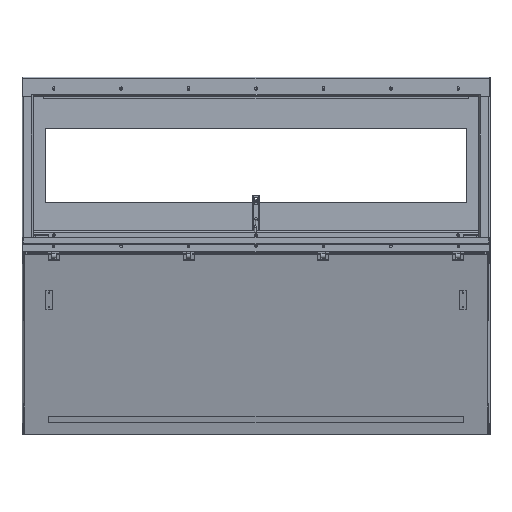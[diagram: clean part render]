
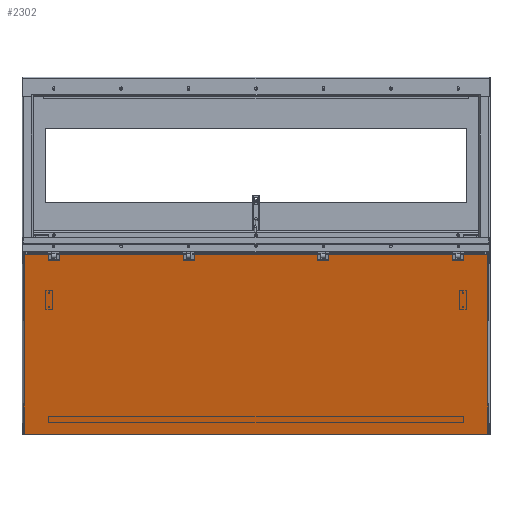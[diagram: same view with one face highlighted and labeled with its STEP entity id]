
A CAD part, top view. The second image highlights one B-rep face of the part: STEP entity #2302.
In plain terms, the highlighted planar face has unit normal (0, -0.208, 0.978) as drawn and (0, -1, 0) by its records, which use the part's own axes.
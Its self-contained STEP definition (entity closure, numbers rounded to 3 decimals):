
#2302 = ADVANCED_FACE( '', ( #3806 ), #3807, .T. );
#3806 = FACE_OUTER_BOUND( '', #5663, .T. );
#3807 = PLANE( '', #5664 );
#5663 = EDGE_LOOP( '', ( #11524, #11525, #11526, #11527, #11528, #11529, #11530, #11531, #11532, #11533, #11534, #11535, #11536, #11537, #11538, #11539, #11540, #11541, #11542, #11543 ) );
#5664 = AXIS2_PLACEMENT_3D( '', #11544, #11545, #11546 );
#11524 = ORIENTED_EDGE( '', *, *, #14182, .T. );
#11525 = ORIENTED_EDGE( '', *, *, #14183, .T. );
#11526 = ORIENTED_EDGE( '', *, *, #14184, .T. );
#11527 = ORIENTED_EDGE( '', *, *, #14185, .F. );
#11528 = ORIENTED_EDGE( '', *, *, #14186, .T. );
#11529 = ORIENTED_EDGE( '', *, *, #14187, .T. );
#11530 = ORIENTED_EDGE( '', *, *, #14188, .T. );
#11531 = ORIENTED_EDGE( '', *, *, #14189, .T. );
#11532 = ORIENTED_EDGE( '', *, *, #14190, .T. );
#11533 = ORIENTED_EDGE( '', *, *, #14191, .T. );
#11534 = ORIENTED_EDGE( '', *, *, #14192, .T. );
#11535 = ORIENTED_EDGE( '', *, *, #14193, .T. );
#11536 = ORIENTED_EDGE( '', *, *, #14194, .T. );
#11537 = ORIENTED_EDGE( '', *, *, #14195, .T. );
#11538 = ORIENTED_EDGE( '', *, *, #14196, .T. );
#11539 = ORIENTED_EDGE( '', *, *, #14197, .T. );
#11540 = ORIENTED_EDGE( '', *, *, #14198, .T. );
#11541 = ORIENTED_EDGE( '', *, *, #14199, .T. );
#11542 = ORIENTED_EDGE( '', *, *, #14200, .T. );
#11543 = ORIENTED_EDGE( '', *, *, #14201, .T. );
#11544 = CARTESIAN_POINT( '', ( -606.425, 0., -241.3 ) );
#11545 = DIRECTION( '', ( 0., -1., 0. ) );
#11546 = DIRECTION( '', ( 0., 0., -1. ) );
#14182 = EDGE_CURVE( '', #16960, #16961, #16962, .T. );
#14183 = EDGE_CURVE( '', #16961, #16963, #16964, .T. );
#14184 = EDGE_CURVE( '', #16963, #16965, #16966, .T. );
#14185 = EDGE_CURVE( '', #16967, #16965, #16968, .T. );
#14186 = EDGE_CURVE( '', #16967, #16969, #16970, .T. );
#14187 = EDGE_CURVE( '', #16969, #16971, #16972, .T. );
#14188 = EDGE_CURVE( '', #16971, #16973, #16974, .T. );
#14189 = EDGE_CURVE( '', #16973, #16975, #16976, .T. );
#14190 = EDGE_CURVE( '', #16975, #16977, #16978, .T. );
#14191 = EDGE_CURVE( '', #16977, #16979, #16980, .T. );
#14192 = EDGE_CURVE( '', #16979, #16981, #16982, .T. );
#14193 = EDGE_CURVE( '', #16981, #16983, #16984, .T. );
#14194 = EDGE_CURVE( '', #16983, #16985, #16986, .T. );
#14195 = EDGE_CURVE( '', #16985, #16987, #16988, .T. );
#14196 = EDGE_CURVE( '', #16987, #16989, #16990, .T. );
#14197 = EDGE_CURVE( '', #16989, #16991, #16992, .T. );
#14198 = EDGE_CURVE( '', #16991, #16993, #16994, .T. );
#14199 = EDGE_CURVE( '', #16993, #16995, #16996, .T. );
#14200 = EDGE_CURVE( '', #16995, #16997, #16998, .T. );
#14201 = EDGE_CURVE( '', #16997, #16960, #16999, .T. );
#16960 = VERTEX_POINT( '', #21184 );
#16961 = VERTEX_POINT( '', #21185 );
#16962 = LINE( '', #21186, #21187 );
#16963 = VERTEX_POINT( '', #21188 );
#16964 = LINE( '', #21189, #21190 );
#16965 = VERTEX_POINT( '', #21191 );
#16966 = LINE( '', #21192, #21193 );
#16967 = VERTEX_POINT( '', #21194 );
#16968 = LINE( '', #21195, #21196 );
#16969 = VERTEX_POINT( '', #21197 );
#16970 = LINE( '', #21198, #21199 );
#16971 = VERTEX_POINT( '', #21200 );
#16972 = LINE( '', #21201, #21202 );
#16973 = VERTEX_POINT( '', #21203 );
#16974 = LINE( '', #21204, #21205 );
#16975 = VERTEX_POINT( '', #21206 );
#16976 = LINE( '', #21207, #21208 );
#16977 = VERTEX_POINT( '', #21209 );
#16978 = LINE( '', #21210, #21211 );
#16979 = VERTEX_POINT( '', #21212 );
#16980 = LINE( '', #21213, #21214 );
#16981 = VERTEX_POINT( '', #21215 );
#16982 = LINE( '', #21216, #21217 );
#16983 = VERTEX_POINT( '', #21218 );
#16984 = LINE( '', #21219, #21220 );
#16985 = VERTEX_POINT( '', #21221 );
#16986 = LINE( '', #21222, #21223 );
#16987 = VERTEX_POINT( '', #21224 );
#16988 = LINE( '', #21225, #21226 );
#16989 = VERTEX_POINT( '', #21227 );
#16990 = LINE( '', #21228, #21229 );
#16991 = VERTEX_POINT( '', #21230 );
#16992 = LINE( '', #21231, #21232 );
#16993 = VERTEX_POINT( '', #21233 );
#16994 = LINE( '', #21234, #21235 );
#16995 = VERTEX_POINT( '', #21236 );
#16996 = LINE( '', #21237, #21238 );
#16997 = VERTEX_POINT( '', #21239 );
#16998 = LINE( '', #21240, #21241 );
#16999 = LINE( '', #21242, #21243 );
#21184 = CARTESIAN_POINT( '', ( 537.08, 0., -227.013 ) );
#21185 = CARTESIAN_POINT( '', ( 537.08, 0., -238.557 ) );
#21186 = CARTESIAN_POINT( '', ( 537.08, 0., -241.3 ) );
#21187 = VECTOR( '', #24473, 1000. );
#21188 = CARTESIAN_POINT( '', ( 603.682, 0., -238.557 ) );
#21189 = CARTESIAN_POINT( '', ( -603.682, 0., -238.557 ) );
#21190 = VECTOR( '', #24474, 1000. );
#21191 = CARTESIAN_POINT( '', ( 603.682, 0., 238.557 ) );
#21192 = CARTESIAN_POINT( '', ( 603.682, 0., -238.557 ) );
#21193 = VECTOR( '', #24475, 1000. );
#21194 = CARTESIAN_POINT( '', ( -603.682, 0., 238.557 ) );
#21195 = CARTESIAN_POINT( '', ( -603.682, 0., 238.557 ) );
#21196 = VECTOR( '', #24476, 1000. );
#21197 = CARTESIAN_POINT( '', ( -603.682, 0., -238.557 ) );
#21198 = CARTESIAN_POINT( '', ( -603.682, 0., 238.557 ) );
#21199 = VECTOR( '', #24477, 1000. );
#21200 = CARTESIAN_POINT( '', ( -537.083, 0., -238.557 ) );
#21201 = CARTESIAN_POINT( '', ( -603.682, 0., -238.557 ) );
#21202 = VECTOR( '', #24478, 1000. );
#21203 = CARTESIAN_POINT( '', ( -537.083, 0., -227.013 ) );
#21204 = CARTESIAN_POINT( '', ( -537.083, 0., -241.3 ) );
#21205 = VECTOR( '', #24479, 1000. );
#21206 = CARTESIAN_POINT( '', ( -517.017, 0., -227.013 ) );
#21207 = CARTESIAN_POINT( '', ( -606.425, 0., -227.013 ) );
#21208 = VECTOR( '', #24480, 1000. );
#21209 = CARTESIAN_POINT( '', ( -517.017, 0., -238.557 ) );
#21210 = CARTESIAN_POINT( '', ( -517.017, 0., -241.3 ) );
#21211 = VECTOR( '', #24481, 1000. );
#21212 = CARTESIAN_POINT( '', ( -185.717, 0., -238.557 ) );
#21213 = CARTESIAN_POINT( '', ( -603.682, 0., -238.557 ) );
#21214 = VECTOR( '', #24482, 1000. );
#21215 = CARTESIAN_POINT( '', ( -185.717, 0., -227.013 ) );
#21216 = CARTESIAN_POINT( '', ( -185.717, 0., -241.3 ) );
#21217 = VECTOR( '', #24483, 1000. );
#21218 = CARTESIAN_POINT( '', ( -165.651, 0., -227.013 ) );
#21219 = CARTESIAN_POINT( '', ( -606.425, 0., -227.013 ) );
#21220 = VECTOR( '', #24484, 1000. );
#21221 = CARTESIAN_POINT( '', ( -165.651, 0., -238.557 ) );
#21222 = CARTESIAN_POINT( '', ( -165.651, 0., -241.3 ) );
#21223 = VECTOR( '', #24485, 1000. );
#21224 = CARTESIAN_POINT( '', ( 165.649, 0., -238.557 ) );
#21225 = CARTESIAN_POINT( '', ( -603.682, 0., -238.557 ) );
#21226 = VECTOR( '', #24486, 1000. );
#21227 = CARTESIAN_POINT( '', ( 165.649, 0., -227.013 ) );
#21228 = CARTESIAN_POINT( '', ( 165.649, 0., -241.3 ) );
#21229 = VECTOR( '', #24487, 1000. );
#21230 = CARTESIAN_POINT( '', ( 185.715, 0., -227.013 ) );
#21231 = CARTESIAN_POINT( '', ( -606.425, 0., -227.013 ) );
#21232 = VECTOR( '', #24488, 1000. );
#21233 = CARTESIAN_POINT( '', ( 185.715, 0., -238.557 ) );
#21234 = CARTESIAN_POINT( '', ( 185.715, 0., -241.3 ) );
#21235 = VECTOR( '', #24489, 1000. );
#21236 = CARTESIAN_POINT( '', ( 517.014, 0., -238.557 ) );
#21237 = CARTESIAN_POINT( '', ( -603.682, 0., -238.557 ) );
#21238 = VECTOR( '', #24490, 1000. );
#21239 = CARTESIAN_POINT( '', ( 517.014, 0., -227.013 ) );
#21240 = CARTESIAN_POINT( '', ( 517.014, 0., -241.3 ) );
#21241 = VECTOR( '', #24491, 1000. );
#21242 = CARTESIAN_POINT( '', ( -606.425, 0., -227.013 ) );
#21243 = VECTOR( '', #24492, 1000. );
#24473 = DIRECTION( '', ( 0., 0., -1. ) );
#24474 = DIRECTION( '', ( 1., 0., 0. ) );
#24475 = DIRECTION( '', ( 0., 0., 1. ) );
#24476 = DIRECTION( '', ( 1., 0., 0. ) );
#24477 = DIRECTION( '', ( 0., 0., -1. ) );
#24478 = DIRECTION( '', ( 1., 0., 0. ) );
#24479 = DIRECTION( '', ( 0., 0., 1. ) );
#24480 = DIRECTION( '', ( 1., 0., 0. ) );
#24481 = DIRECTION( '', ( 0., 0., -1. ) );
#24482 = DIRECTION( '', ( 1., 0., 0. ) );
#24483 = DIRECTION( '', ( 0., 0., 1. ) );
#24484 = DIRECTION( '', ( 1., 0., 0. ) );
#24485 = DIRECTION( '', ( 0., 0., -1. ) );
#24486 = DIRECTION( '', ( 1., 0., 0. ) );
#24487 = DIRECTION( '', ( 0., 0., 1. ) );
#24488 = DIRECTION( '', ( 1., 0., 0. ) );
#24489 = DIRECTION( '', ( 0., 0., -1. ) );
#24490 = DIRECTION( '', ( 1., 0., 0. ) );
#24491 = DIRECTION( '', ( 0., 0., 1. ) );
#24492 = DIRECTION( '', ( 1., 0., 0. ) );
